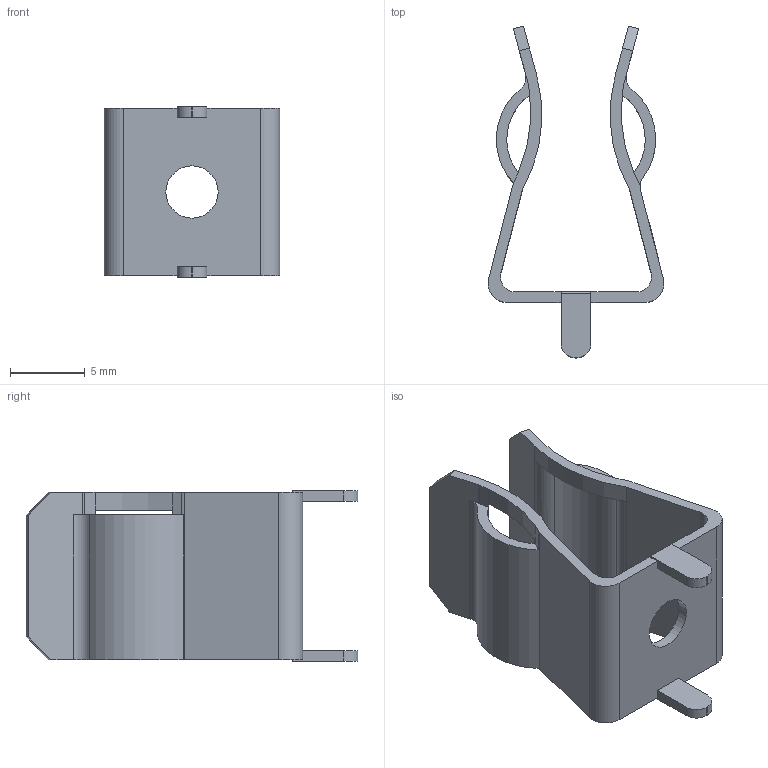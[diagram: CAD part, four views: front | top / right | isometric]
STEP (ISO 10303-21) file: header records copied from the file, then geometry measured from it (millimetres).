
FILE_DESCRIPTION(/* description */ (''),/* implementation_level */ '2;1');
FILE_NAME(/* name */ 'C:\Users\Hani\Desktop\work\CSG-01\CSG-01.stp',/* time_stamp */ '2021-10-29T15:41:32-07:00',/* author */ ('Hani'),/* organization */ (''),/* preprocessor_version */ 'ST-DEVELOPER v17',/* originating_system */ 'Autodesk Inventor 2019',/* authorisation */ '');
FILE_SCHEMA (('AUTOMOTIVE_DESIGN { 1 0 10303 214 3 1 1 }'));
Length unit declared in the file: inch
Products named in the file (1): CSA-01
Bounding box: 11.76 x 22.2 x 11.4 mm (x, y, z)
Volume: 387.6 mm3; surface area: 1196.1 mm2
Topology: 1 solids, 1 shells, 202 faces, 566 edges, 374 vertices
Faces by surface type: plane 107, bspline 67, cylinder 28
Full cylindrical faces by diameter (mm): 3.5 x1
Entity records: 7089 total; most frequent: CARTESIAN_POINT 2222, ORIENTED_EDGE 1132, DIRECTION 764, EDGE_CURVE 566, VERTEX_POINT 374, LINE 372, VECTOR 372, EDGE_LOOP 216
